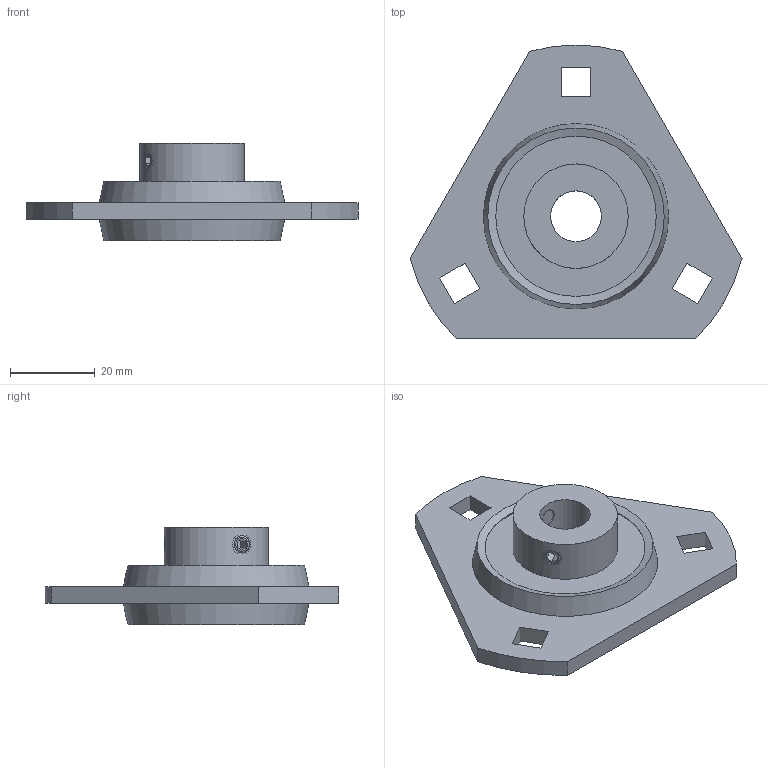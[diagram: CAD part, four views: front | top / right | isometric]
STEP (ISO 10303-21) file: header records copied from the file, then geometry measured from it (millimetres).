
FILE_DESCRIPTION((''),'2;1');
FILE_NAME('\\Ts-tgl068\j-cad-d-base\00.3DCADデータ作成フォルダ\02.フランジ形\BPFT\BPFT1.stp','2014-05-08T08:30:57',('btec_1106_2'),(''),'Autodesk Inventor 2012','Autodesk Inventor 2012','');
FILE_SCHEMA(('AUTOMOTIVE_DESIGN { 1 0 10303 214 1 1 1 1 }'));
Length unit declared in the file: millimetre
Products named in the file (3): BPFT; PFT3; シリーズB [番手=1 ul]
Assembly tree (2 placements, depth 2):
  BPFT
    PFT3
    シリーズB [番手=1 ul]
Bounding box: 78.5 x 69.5 x 23 mm (x, y, z)
Volume: 29006.8 mm3; surface area: 14350.9 mm2
Topology: 2 solids, 2 shells, 61 faces, 144 edges, 94 vertices
Faces by surface type: plane 40, cylinder 13, sphere 4, cone 4
Full cylindrical faces by diameter (mm): 4.134 x2, 5 x2, 12 x1, 24.7 x1
Entity records: 1846 total; most frequent: CARTESIAN_POINT 420, DIRECTION 276, ORIENTED_EDGE 248, EDGE_CURVE 124, AXIS2_PLACEMENT_3D 96, EDGE_LOOP 94, VERTEX_POINT 90, VECTOR 84
